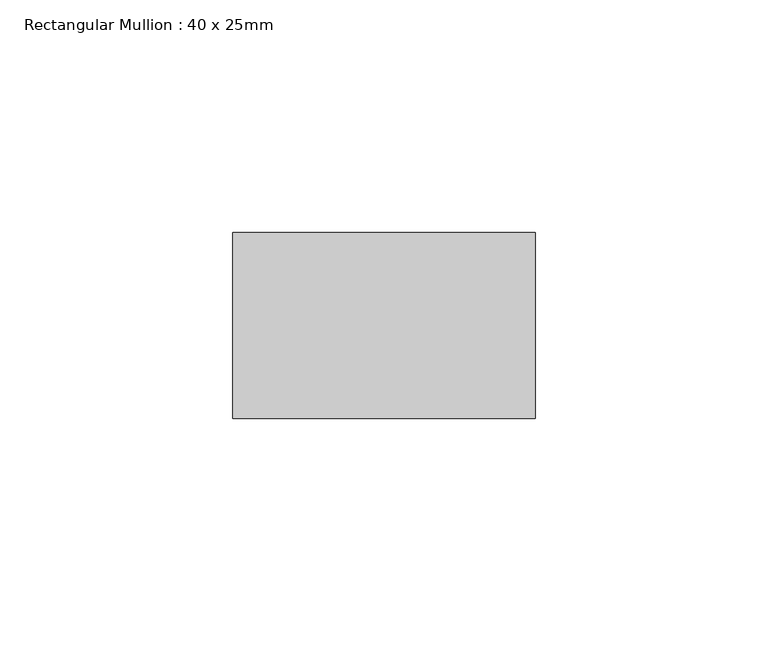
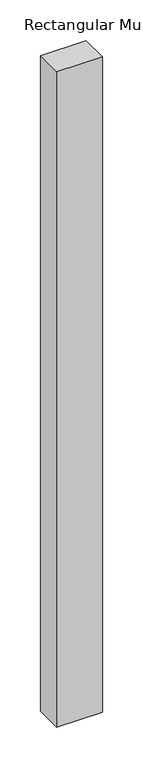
"""IFC4 building model written with IfcOpenShell, lengths in millimetres: member geometry, Rectangular Mullion : 40 x 25mm."""

from ifc_helpers import new_model, si_unit, frame, origin, place, context, project, spatial, polyline, outline, extrude, source, transform, mapped, element, save


def rectangular_mullion_40_x_25mm_fe646cae(model_context):
    return source(origin(), model_context, "Body", "SweptSolid", [
        extrude(outline(polyline([(0.0, -20.0), (0.0, -60.0), (-65.0, -60.0), (-65.0, -20.0), (0.0, -20.0)])), frame((0.0, 0.0, -984.7918235), z_axis=(0.0, 0.0, 1.0), x_axis=(1.0, 0.0, 0.0)), (0.0, 0.0, 1.0), 984.7918235),
    ])


if __name__ == "__main__":
    model = new_model("IFC4")
    model_context = context("Model", 3, world=origin())
    ifc_project = project(units=[si_unit("LENGTHUNIT", "METRE", prefix="MILLI")], contexts=[model_context])
    site = spatial("IfcSite", under=ifc_project)
    building = spatial("IfcBuilding", under=site)
    placement = place(None, origin())
    rectangular_mullion_40_x_25mm_shape = rectangular_mullion_40_x_25mm_fe646cae(model_context)
    element("IfcMember", 1, ObjectType="Rectangular Mullion : 40 x 25mm", at=placement, inside=building, context=model_context, shape_type="MappedRepresentation", body=[
        mapped(rectangular_mullion_40_x_25mm_shape, transform((0.0, 0.0, 0.0), x_axis=(1.0, 0.0, 0.0), y_axis=(0.0, 1.0, 0.0), z_axis=(0.0, 0.0, 1.0))),
    ])
    save(model, "model.ifc")
